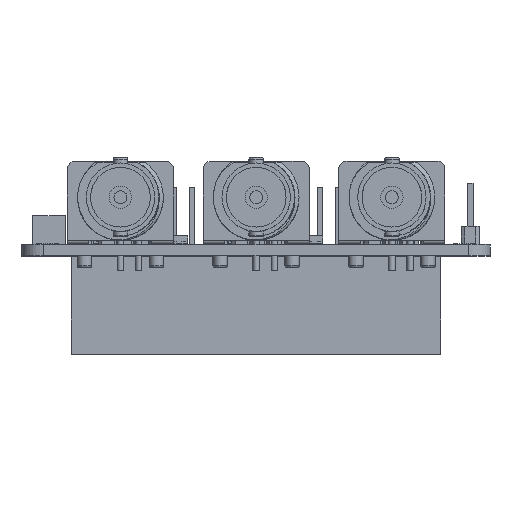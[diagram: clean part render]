
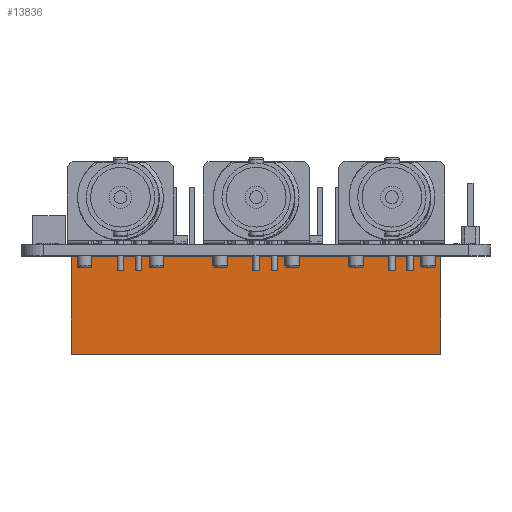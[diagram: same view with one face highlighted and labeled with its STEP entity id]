
A CAD part, top view. The second image highlights one B-rep face of the part: STEP entity #13836.
In plain terms, the highlighted planar face has unit normal (0, 0, 1).
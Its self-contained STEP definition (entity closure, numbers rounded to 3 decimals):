
#1411 = CARTESIAN_POINT ( 'NONE',  ( 3.87, -13.6, -50. ) ) ;
#3149 = DIRECTION ( 'NONE',  ( 0., 1., 0. ) ) ;
#3609 = CARTESIAN_POINT ( 'NONE',  ( 3.87, -13.6, -50. ) ) ;
#3980 = LINE ( 'NONE', #36265, #40686 ) ;
#4123 = EDGE_CURVE ( 'NONE', #15469, #19315, #37054, .T. ) ;
#9704 = ORIENTED_EDGE ( 'NONE', *, *, #27550, .F. ) ;
#9776 = LINE ( 'NONE', #27678, #10331 ) ;
#10331 = VECTOR ( 'NONE', #28021, 1000. ) ;
#12991 = ORIENTED_EDGE ( 'NONE', *, *, #46706, .T. ) ;
#13239 = DIRECTION ( 'NONE',  ( 1., 0., 0. ) ) ;
#13836 = ADVANCED_FACE ( 'NONE', ( #30606 ), #44676, .T. ) ;
#13848 = EDGE_CURVE ( 'NONE', #25374, #18920, #19879, .T. ) ;
#15469 = VERTEX_POINT ( 'NONE', #1411 ) ;
#15827 = CARTESIAN_POINT ( 'NONE',  ( 55.13, -13.6, -50. ) ) ;
#18920 = VERTEX_POINT ( 'NONE', #47443 ) ;
#19315 = VERTEX_POINT ( 'NONE', #42416 ) ;
#19879 = LINE ( 'NONE', #48422, #47125 ) ;
#22167 = DIRECTION ( 'NONE',  ( 0., 0., 1. ) ) ;
#25374 = VERTEX_POINT ( 'NONE', #15827 ) ;
#27550 = EDGE_CURVE ( 'NONE', #19315, #18920, #9776, .T. ) ;
#27678 = CARTESIAN_POINT ( 'NONE',  ( 3.87, 0., -50. ) ) ;
#28021 = DIRECTION ( 'NONE',  ( 1., 0., 0. ) ) ;
#29079 = ORIENTED_EDGE ( 'NONE', *, *, #4123, .F. ) ;
#30606 = FACE_OUTER_BOUND ( 'NONE', #37240, .T. ) ;
#31857 = AXIS2_PLACEMENT_3D ( 'NONE', #37563, #22167, #48749 ) ;
#35871 = VECTOR ( 'NONE', #37698, 1000. ) ;
#36265 = CARTESIAN_POINT ( 'NONE',  ( 3.87, -13.6, -50. ) ) ;
#37054 = LINE ( 'NONE', #3609, #35871 ) ;
#37240 = EDGE_LOOP ( 'NONE', ( #9704, #29079, #12991, #41226 ) ) ;
#37563 = CARTESIAN_POINT ( 'NONE',  ( 3.87, -13.6, -50. ) ) ;
#37698 = DIRECTION ( 'NONE',  ( 0., 1., 0. ) ) ;
#40686 = VECTOR ( 'NONE', #13239, 1000. ) ;
#41226 = ORIENTED_EDGE ( 'NONE', *, *, #13848, .T. ) ;
#42416 = CARTESIAN_POINT ( 'NONE',  ( 3.87, 0., -50. ) ) ;
#44676 = PLANE ( 'NONE',  #31857 ) ;
#46706 = EDGE_CURVE ( 'NONE', #15469, #25374, #3980, .T. ) ;
#47125 = VECTOR ( 'NONE', #3149, 1000. ) ;
#47443 = CARTESIAN_POINT ( 'NONE',  ( 55.13, 0., -50. ) ) ;
#48422 = CARTESIAN_POINT ( 'NONE',  ( 55.13, -13.6, -50. ) ) ;
#48749 = DIRECTION ( 'NONE',  ( 1., 0., 0. ) ) ;
